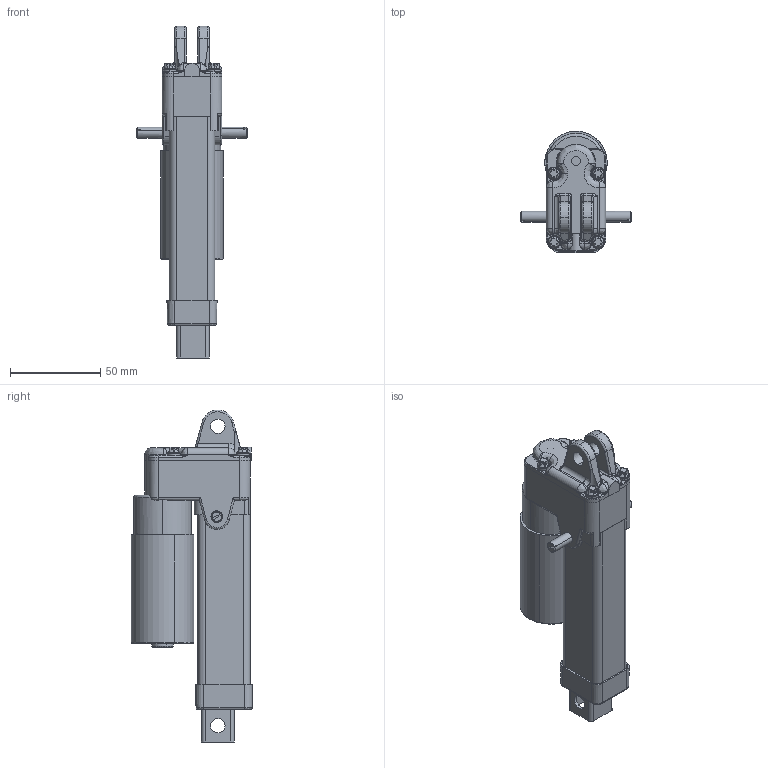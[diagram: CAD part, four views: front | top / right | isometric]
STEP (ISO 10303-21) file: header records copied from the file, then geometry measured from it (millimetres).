
FILE_DESCRIPTION (( 'STEP AP203' ), '1' );
FILE_NAME ('120 SE.STEP', '2009-11-26T13:32:50', ( 'PC' ), ( 'PC' ), 'SwSTEP 2.0', 'SolidWorks 2007', '' );
FILE_SCHEMA (( 'CONFIG_CONTROL_DESIGN' ));
Length unit declared in the file: millimetre
Products named in the file (12): Brille_Standard_Standard; Schubstange_Standard; 120 SE; Gehäuse 120-40_Standard_Standard; Aussenrohr_Standard_Standard; Deckel 120-40_Standard_Standard; 120 Motor_Standard_Standard; Gewindestift_Standard_Standard; Schubrohr_Standard_Standard; Schubstangenmutter_Standard_Standard; Madenschraube DIN 913_M4x4_Standard; Schraube_Standard_Standard
Assembly tree (17 placements, depth 3):
  120 SE
    Aussenrohr_Standard_Standard
    Schraube_Standard_Standard  x4
    Gewindestift_Standard_Standard  x2
    Brille_Standard_Standard
    Schubstange_Standard
      Madenschraube DIN 913_M4x4_Standard  x2
      Schubrohr_Standard_Standard
      Schubstangenmutter_Standard_Standard
    Deckel 120-40_Standard_Standard
    Schubstangenmutter_Standard_Standard
    Gehäuse 120-40_Standard_Standard
    120 Motor_Standard_Standard
Bounding box: 61 x 66.98 x 183.5 mm (x, y, z)
Volume: 129031.3 mm3; surface area: 80598.9 mm2
Topology: 16 solids, 16 shells, 957 faces, 2283 edges, 1352 vertices
Faces by surface type: cylinder 380, plane 259, bspline 234, cone 84
Entity records: 33016 total; most frequent: CARTESIAN_POINT 16795, ORIENTED_EDGE 3158, DIRECTION 3049, EDGE_CURVE 1579, AXIS2_PLACEMENT_3D 1176, VERTEX_POINT 955, EDGE_LOOP 716, VECTOR 697
